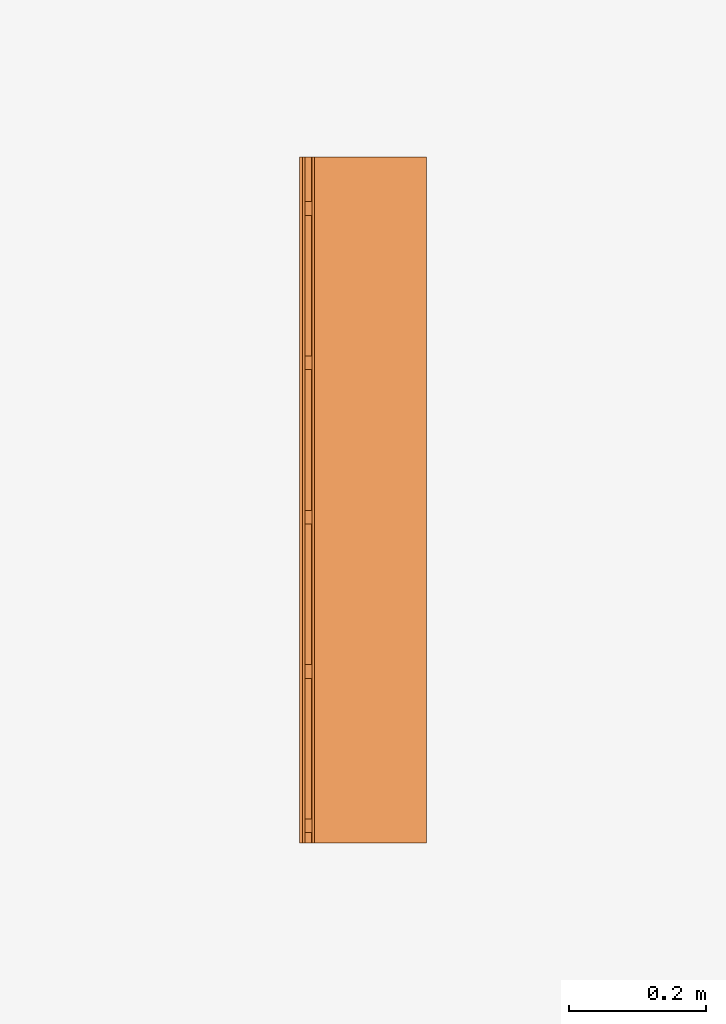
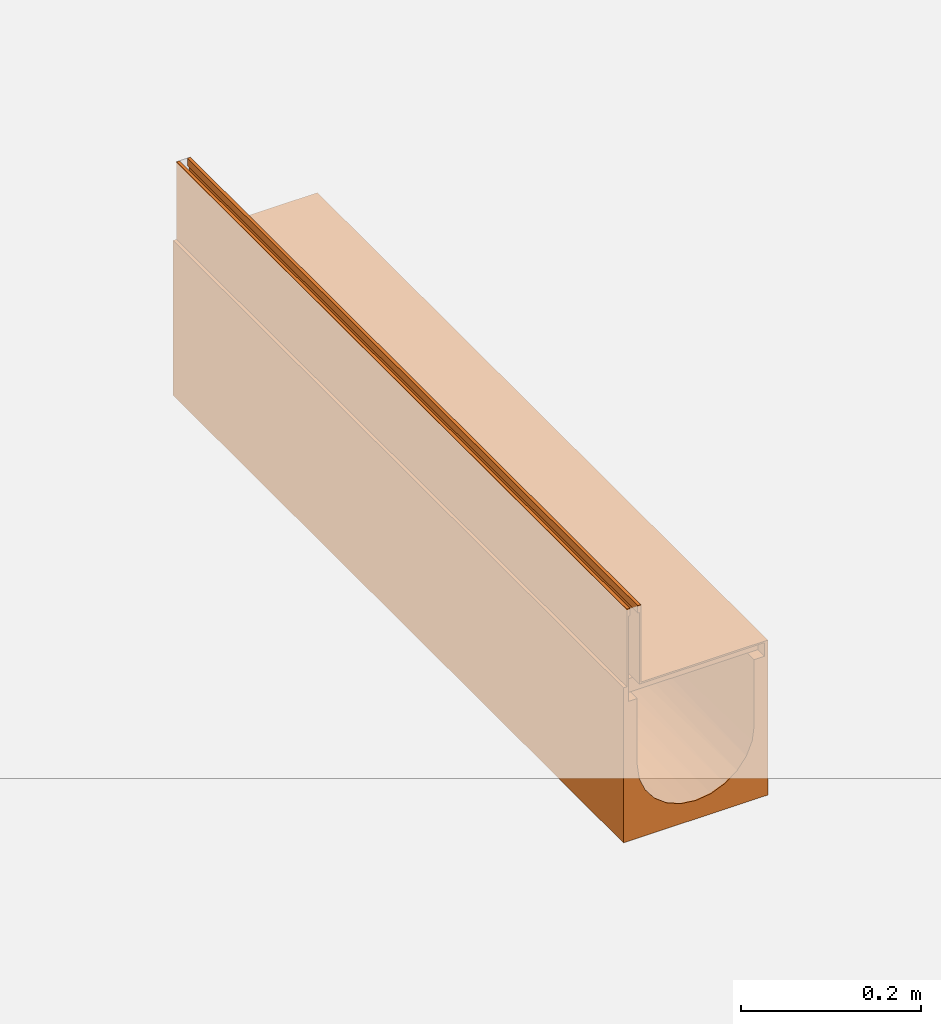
# One storey, part 2 of 2: 1 proxy.
"""IFC2X3 building model written with IfcOpenShell, lengths in millimetres."""

from ifc_helpers import new_model, entity, si_unit, converted_unit, direction, frame, origin, place, context, subcontext, project, spatial, faceted_brep, source, transform, mapped, material, material_list, element, save


model = new_model("IFC2X3")

# Units and contexts
model_context = context("Model", 3, precision=1e-06, world=origin(), true_north=direction((2.0, 6.12303176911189e-17, 1.0)))
context_of_model = context(None, 3, precision=1e-06, world=origin(), true_north=direction((2.0, 6.12303176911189e-17, 1.0)))
body_context = subcontext(model_context, "Body", "Model", "MODEL_VIEW")
ifc_project = project(units=[si_unit("LENGTHUNIT", "METRE", prefix="MILLI"), si_unit("AREAUNIT", "SQUARE_METRE", prefix="MILLI"), si_unit("VOLUMEUNIT", "CUBIC_METRE", prefix="MILLI"), converted_unit("PLANEANGLEUNIT", "DEGREE", entity("IfcRatioMeasure", 0.0174532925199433), si_unit("PLANEANGLEUNIT", "RADIAN"), dimensions=[0, 0, 0, 0, 0, 0, 0]), si_unit("TIMEUNIT", "SECOND")], contexts=[model_context, context_of_model])

# Site, building, storey
site_placement = place(None, origin())
site = spatial("IfcSite", under=ifc_project, at=site_placement, Name="Default", CompositionType="ELEMENT")
building_placement = place(site_placement, origin())
building = spatial("IfcBuilding", under=site, at=building_placement, CompositionType="ELEMENT")
storey_placement = place(building_placement, origin())
storey = spatial("IfcBuildingStorey", under=building, at=storey_placement, Name="Level 1", CompositionType="ELEMENT", Elevation=0.0)

# Proxy
ifc_material_1 = material(Name="Steel, Galvanized")
ifc_material_2 = material(Name="Vienite® Synthetic Resin Concrete")
ifc_material_list = material_list([ifc_material_1, ifc_material_2])
shared_shape = source(origin(), body_context, "Body", "Brep", [
    faceted_brep([(88.2500000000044, 465.0, -107.0), (88.2500000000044, 467.0, -109.0), (88.2500000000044, 483.0, -109.0), (88.2500000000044, 485.0, -107.0), (88.2500000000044, 467.0, -123.499999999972), (88.2500000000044, 465.0, -125.499999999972), (88.2500000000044, 483.0, -123.499999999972), (88.2500000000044, 485.0, -125.499999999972), (-86.2499999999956, 465.0, -125.499999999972), (-86.2499999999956, 467.0, -123.499999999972), (-86.2499999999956, 483.0, -123.499999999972), (-86.2499999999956, 485.0, -125.499999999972), (-86.2499999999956, 467.0, -109.0), (-86.2499999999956, 465.0, -107.0), (-86.2499999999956, 483.0, -109.0), (-86.2499999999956, 485.0, -107.0)], [[[0, 1, 2, 3]], [[4, 1, 0, 5]], [[3, 2, 6, 7]], [[6, 4, 5, 7]], [[8, 9, 10, 11]], [[12, 9, 8, 13]], [[11, 10, 14, 15]], [[14, 12, 13, 15]], [[5, 0, 13, 8]], [[7, 5, 8, 11]], [[3, 7, 11, 15]], [[0, 3, 15, 13]], [[1, 4, 9, 12]], [[14, 2, 1, 12]], [[6, 2, 14, 10]], [[9, 4, 6, 10]]]),
    faceted_brep([(88.2500000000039, 240.0, -107.0), (88.2500000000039, 242.0, -109.0), (88.2500000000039, 258.0, -109.0), (88.2500000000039, 260.0, -107.0), (88.2500000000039, 242.0, -123.499999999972), (88.2500000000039, 240.0, -125.499999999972), (88.2500000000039, 258.0, -123.499999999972), (88.2500000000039, 260.0, -125.499999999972), (-86.2499999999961, 240.0, -125.499999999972), (-86.2499999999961, 242.0, -123.499999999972), (-86.2499999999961, 258.0, -123.499999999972), (-86.2499999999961, 260.0, -125.499999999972), (-86.2499999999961, 242.0, -109.0), (-86.2499999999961, 240.0, -107.0), (-86.2499999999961, 258.0, -109.0), (-86.2499999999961, 260.0, -107.0)], [[[0, 1, 2, 3]], [[4, 1, 0, 5]], [[3, 2, 6, 7]], [[6, 4, 5, 7]], [[8, 9, 10, 11]], [[12, 9, 8, 13]], [[11, 10, 14, 15]], [[14, 12, 13, 15]], [[5, 0, 13, 8]], [[7, 5, 8, 11]], [[15, 3, 7, 11]], [[0, 3, 15, 13]], [[1, 4, 9, 12]], [[14, 2, 1, 12]], [[6, 2, 14, 10]], [[9, 4, 6, 10]]]),
    faceted_brep([(88.2500000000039, 15.0, -107.0), (88.2500000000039, 17.0, -109.0), (88.2500000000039, 33.0, -109.0), (88.2500000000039, 35.0, -107.0), (88.2500000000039, 17.0, -123.499999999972), (88.2500000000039, 15.0, -125.499999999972), (88.2500000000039, 33.0, -123.499999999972), (88.2500000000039, 35.0, -125.499999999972), (-86.2499999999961, 15.0, -125.499999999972), (-86.2499999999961, 17.0, -123.499999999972), (-86.2499999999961, 33.0, -123.499999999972), (-86.2499999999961, 35.0, -125.499999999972), (-86.2499999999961, 17.0, -109.0), (-86.2499999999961, 15.0, -107.0), (-86.2499999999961, 33.0, -109.0), (-86.2499999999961, 35.0, -107.0)], [[[0, 1, 2, 3]], [[4, 1, 0, 5]], [[3, 2, 6, 7]], [[6, 4, 5, 7]], [[8, 9, 10, 11]], [[12, 9, 8, 13]], [[11, 10, 14, 15]], [[14, 12, 13, 15]], [[5, 0, 13, 8]], [[7, 5, 8, 11]], [[3, 7, 11, 15]], [[0, 3, 15, 13]], [[12, 1, 4, 9]], [[14, 2, 1, 12]], [[10, 6, 2, 14]], [[9, 4, 6, 10]]]),
    faceted_brep([(88.2500000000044, 915.0, -107.0), (88.2500000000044, 917.0, -109.0), (88.2500000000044, 933.0, -109.0), (88.2500000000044, 935.0, -107.0), (88.2500000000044, 917.0, -123.49999999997), (88.2500000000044, 915.0, -125.49999999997), (88.2500000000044, 933.0, -123.49999999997), (88.2500000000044, 935.0, -125.49999999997), (-86.2499999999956, 915.0, -125.49999999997), (-86.2499999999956, 917.0, -123.49999999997), (-86.2499999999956, 933.0, -123.49999999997), (-86.2499999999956, 935.0, -125.49999999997), (-86.2499999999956, 917.0, -109.0), (-86.2499999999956, 915.0, -107.0), (-86.2499999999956, 933.0, -109.0), (-86.2499999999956, 935.0, -107.0)], [[[0, 1, 2, 3]], [[4, 1, 0, 5]], [[3, 2, 6, 7]], [[6, 4, 5, 7]], [[8, 9, 10, 11]], [[12, 9, 8, 13]], [[11, 10, 14, 15]], [[14, 12, 13, 15]], [[5, 0, 13, 8]], [[7, 5, 8, 11]], [[15, 3, 7, 11]], [[0, 3, 15, 13]], [[1, 4, 9, 12]], [[14, 2, 1, 12]], [[6, 2, 14, 10]], [[9, 4, 6, 10]]]),
    faceted_brep([(88.2500000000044, 690.0, -107.0), (88.2500000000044, 692.0, -109.0), (88.2500000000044, 708.0, -109.0), (88.2500000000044, 710.0, -107.0), (88.2500000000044, 692.0, -123.49999999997), (88.2500000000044, 690.0, -125.49999999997), (88.2500000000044, 708.0, -123.49999999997), (88.2500000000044, 710.0, -125.49999999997), (-86.2499999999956, 690.0, -125.49999999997), (-86.2499999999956, 692.0, -123.49999999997), (-86.2499999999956, 708.0, -123.49999999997), (-86.2499999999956, 710.0, -125.49999999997), (-86.2499999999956, 692.0, -109.0), (-86.2499999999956, 690.0, -107.0), (-86.2499999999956, 708.0, -109.0), (-86.2499999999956, 710.0, -107.0)], [[[0, 1, 2, 3]], [[4, 1, 0, 5]], [[3, 2, 6, 7]], [[6, 4, 5, 7]], [[8, 9, 10, 11]], [[12, 9, 8, 13]], [[11, 10, 14, 15]], [[14, 12, 13, 15]], [[8, 5, 0, 13]], [[7, 5, 8, 11]], [[3, 7, 11, 15]], [[0, 3, 15, 13]], [[12, 1, 4, 9]], [[14, 2, 1, 12]], [[10, 6, 2, 14]], [[9, 4, 6, 10]]]),
    faceted_brep([(-72.2499999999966, 0.0, -10.0), (-72.2499999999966, 0.0, -107.0), (-70.2499999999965, 0.0, -105.0), (-70.2499999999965, 0.0, 0.0), (-74.2499999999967, 0.0, 0.0), (-74.2499999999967, 0.0, -10.0), (88.2500000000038, 0.0, -107.0), (88.2500000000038, 0.0, -105.0), (-70.2499999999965, 1000.0, -105.0), (88.2500000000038, 1000.0, -105.0), (88.2500000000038, 1000.0, -107.0), (-72.2499999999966, 1000.0, -107.0), (-72.2499999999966, 1000.0, -10.0), (-70.2499999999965, 1000.0, 0.0), (-74.2499999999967, 1000.0, -10.0), (-74.2499999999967, 1000.0, 0.0)], [[[0, 1, 2, 3]], [[4, 5, 0, 3]], [[6, 7, 2, 1]], [[8, 9, 10, 11]], [[12, 13, 8, 11]], [[12, 14, 15, 13]], [[0, 5, 14, 12]], [[11, 1, 0, 12]], [[6, 1, 11, 10]], [[8, 2, 7, 9]], [[3, 2, 8, 13]], [[15, 4, 3, 13]], [[5, 4, 15, 14]], [[9, 7, 6, 10]]]),
    faceted_brep([(-84.2499999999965, 1000.0, 0.0), (-84.2499999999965, 1000.0, -10.0), (-86.2499999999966, 1000.0, -10.0), (-88.2499999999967, 1000.0, 0.0), (-88.2499999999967, 1000.0, -125.499999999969), (-86.2499999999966, 1000.0, -125.499999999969), (-86.2499999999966, 0.0, -10.0), (-88.2499999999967, 0.0, 0.0), (-88.2499999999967, 0.0, -125.499999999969), (-86.2499999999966, 0.0, -125.499999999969), (-84.2499999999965, 0.0, 0.0), (-84.2499999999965, 0.0, -10.0)], [[[0, 1, 2, 3]], [[4, 3, 2, 5]], [[6, 7, 8, 9]], [[10, 7, 6, 11]], [[9, 8, 4, 5]], [[6, 9, 5, 2]], [[11, 6, 2, 1]], [[10, 11, 1, 0]], [[3, 7, 10, 0]], [[4, 8, 7, 3]]]),
    faceted_brep([(88.2499999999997, 1000.0, -125.500000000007), (88.2499999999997, 1000.0, -105.0), (92.5000000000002, 1000.0, -105.0), (92.5000000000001, 1000.0, -315.0), (75.0, 1000.0, -215.0), (75.0, 1000.0, -125.500000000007), (72.4444369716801, 1000.0, -234.411428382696), (-92.4999999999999, 1000.0, -105.0), (-88.2499999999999, 1000.0, -105.0), (-88.2499999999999, 1000.0, -125.500000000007), (-92.4999999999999, 1000.0, -315.0), (-75.0, 1000.0, -125.500000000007), (-75.0, 1000.0, -215.0), (53.0330085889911, 1000.0, -268.033008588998), (64.9519052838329, 1000.0, -252.500000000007), (37.5000000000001, 1000.0, -279.95190528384), (0.0, 1000.0, -290.0), (19.4114283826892, 1000.0, -287.444436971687), (-64.9519052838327, 1000.0, -252.500000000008), (-53.0330085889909, 1000.0, -268.033008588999), (-72.44443697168, 1000.0, -234.411428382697), (-37.4999999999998, 1000.0, -279.95190528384), (-19.4114283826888, 1000.0, -287.444436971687), (92.5000000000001, 0.0, -315.0), (19.4114283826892, 0.0, -287.444436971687), (0.0, 0.0, -290.0), (37.5000000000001, 0.0, -279.95190528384), (53.0330085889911, 0.0, -268.033008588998), (64.9519052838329, 0.0, -252.500000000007), (72.4444369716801, 0.0, -234.411428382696), (-19.4114283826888, 0.0, -287.444436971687), (-92.4999999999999, 0.0, -315.0), (-37.4999999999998, 0.0, -279.95190528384), (-53.0330085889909, 0.0, -268.033008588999), (-64.9519052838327, 0.0, -252.500000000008), (-72.44443697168, 0.0, -234.411428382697), (75.0, 0.0, -215.0), (88.2499999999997, 0.0, -125.500000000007), (75.0, 0.0, -125.500000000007), (92.5000000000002, 0.0, -105.0), (88.2499999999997, 0.0, -105.0), (-75.0, 0.0, -215.0), (-75.0, 0.0, -125.500000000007), (-88.2499999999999, 0.0, -125.500000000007), (-88.2499999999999, 0.0, -105.0), (-92.4999999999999, 0.0, -105.0), (-20.7055236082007, 47.7259338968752, -315.0), (0.0, 45.0, -315.0), (-40.0, 55.7179676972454, -315.0), (-77.2740661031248, 104.294476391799, -315.0), (-69.2820323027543, 85.0, -315.0), (-56.5685424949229, 68.4314575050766, -315.0), (-80.0, 125.0, -315.0), (20.7055236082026, 47.7259338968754, -315.0), (40.0, 55.7179676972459, -315.0), (56.5685424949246, 68.4314575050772, -315.0), (69.2820323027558, 85.0, -315.0), (77.2740661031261, 104.294476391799, -315.0), (80.0, 125.0, -315.0), (-77.2740661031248, 145.705523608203, -315.0), (-69.2820323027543, 165.0, -315.0), (-56.5685424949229, 181.568542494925, -315.0), (-40.0, 194.282032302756, -315.0), (-20.7055236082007, 202.274066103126, -315.0), (0.0, 205.0, -315.0), (69.2820323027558, 165.0, -315.0), (56.5685424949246, 181.568542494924, -315.0), (77.2740661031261, 145.705523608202, -315.0), (20.7055236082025, 202.274066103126, -315.0), (40.0, 194.282032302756, -315.0), (75.0, 500.0, -215.0), (-75.0, 500.0, -215.0), (59.5015003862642, 412.754760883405, -260.657107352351), (28.7012574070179, 587.245238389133, -284.290964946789), (9.78946440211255, 500.0, -289.358364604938), (69.290964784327, 499.999994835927, -243.701257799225), (73.5588959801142, 358.503168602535, -229.631774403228), (45.6571070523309, 500.0, -274.501500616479), (74.0403241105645, 701.518493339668, -226.959531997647), (-45.6571071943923, 412.754763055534, -274.501500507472), (-73.5588960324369, 641.496824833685, -229.631774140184), (-28.70125746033, 500.0, -284.290964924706), (-9.78946442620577, 587.245236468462, -289.358364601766), (-59.5015005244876, 587.24523647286, -260.657107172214), (-74.0403241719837, 298.481491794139, -226.959531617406), (-69.290964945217, 500.0, -243.701257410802), (-56.5685424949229, 181.568542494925, -305.0), (-40.0, 194.282032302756, -305.0), (-20.7055236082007, 202.274066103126, -305.0), (40.0, 194.282032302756, -305.0), (-80.0, 125.0, -305.0), (-77.2740661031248, 145.705523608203, -305.0), (-69.2820323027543, 165.0, -305.0), (77.2740661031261, 145.705523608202, -305.0), (0.0, 205.0, -305.0), (20.7055236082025, 202.274066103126, -305.0), (56.5685424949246, 181.568542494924, -305.0), (69.2820323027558, 165.0, -305.0), (-77.2740661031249, 104.294476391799, -305.0), (80.0, 125.0, -305.0), (-56.5685424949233, 68.431457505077, -305.0), (-69.2820323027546, 85.0, -305.0), (-40.0, 55.7179676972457, -305.0), (0.0, 45.0, -305.0), (-20.7055236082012, 47.7259338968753, -305.0), (40.0, 55.7179676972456, -305.0), (77.2740661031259, 104.294476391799, -305.0), (69.2820323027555, 85.0, -305.0), (56.5685424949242, 68.4314575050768, -305.0), (20.7055236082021, 47.7259338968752, -305.0)], [[[0, 1, 2, 3]], [[4, 5, 0, 3]], [[4, 3, 6]], [[7, 8, 9, 10]], [[9, 11, 12, 10]], [[13, 14, 3]], [[15, 13, 3]], [[16, 17, 3, 10]], [[3, 17, 15]], [[14, 6, 3]], [[18, 19, 10]], [[20, 18, 10]], [[21, 22, 10]], [[10, 22, 16]], [[21, 10, 19]], [[20, 10, 12]], [[23, 24, 25]], [[24, 23, 26]], [[27, 26, 23]], [[28, 27, 23]], [[23, 29, 28]], [[25, 30, 31, 23]], [[31, 30, 32]], [[33, 34, 31]], [[32, 33, 31]], [[31, 34, 35]], [[29, 23, 36]], [[37, 38, 36, 23]], [[39, 40, 37, 23]], [[41, 42, 43, 31]], [[43, 44, 45, 31]], [[41, 31, 35]], [[44, 43, 9, 8]], [[7, 45, 44, 8]], [[31, 45, 7, 10]], [[31, 46, 47, 23]], [[46, 31, 48]], [[49, 50, 31]], [[51, 48, 31]], [[50, 51, 31]], [[31, 52, 49]], [[23, 53, 54]], [[53, 23, 47]], [[23, 54, 55]], [[55, 56, 23]], [[57, 58, 23]], [[56, 57, 23]], [[23, 58, 3]], [[59, 52, 10]], [[60, 59, 10]], [[61, 10, 62]], [[10, 61, 60]], [[63, 62, 10]], [[64, 63, 10, 3]], [[52, 31, 10]], [[65, 66, 3]], [[67, 65, 3]], [[68, 64, 3]], [[69, 3, 66]], [[3, 69, 68]], [[67, 3, 58]], [[39, 23, 3, 2]], [[1, 40, 39, 2]], [[37, 40, 1, 0]], [[38, 37, 0, 5]], [[4, 70, 38, 5]], [[11, 42, 41, 71]], [[9, 43, 42, 11]], [[72, 27, 28]], [[73, 74, 24]], [[28, 29, 75]], [[75, 29, 76]], [[26, 27, 77]], [[76, 78, 75]], [[70, 76, 36]], [[75, 72, 28]], [[6, 78, 4]], [[24, 26, 73]], [[14, 75, 6]], [[78, 70, 4]], [[76, 29, 36]], [[15, 17, 73]], [[79, 33, 32]], [[72, 75, 14]], [[20, 12, 80]], [[14, 13, 72]], [[15, 73, 77]], [[21, 81, 22]], [[17, 16, 74]], [[24, 74, 25]], [[82, 81, 30]], [[15, 77, 13]], [[32, 30, 81]], [[83, 79, 19]], [[84, 80, 71]], [[79, 32, 81]], [[35, 34, 85]], [[83, 34, 33]], [[82, 22, 81]], [[85, 34, 83]], [[19, 79, 21]], [[71, 41, 84]], [[30, 25, 82]], [[22, 82, 16]], [[72, 77, 27]], [[82, 74, 16]], [[78, 76, 70]], [[79, 81, 21]], [[73, 17, 74]], [[18, 85, 83]], [[83, 19, 18]], [[77, 73, 26]], [[20, 80, 85]], [[77, 72, 13]], [[74, 82, 25]], [[33, 79, 83]], [[6, 75, 78]], [[20, 85, 18]], [[35, 85, 84]], [[71, 80, 12]], [[80, 84, 85]], [[35, 84, 41]], [[86, 87, 88, 89]], [[86, 90, 91, 92]], [[90, 86, 89, 93]], [[88, 94, 95, 89]], [[89, 96, 97, 93]], [[98, 90, 93, 99]], [[100, 101, 98, 102]], [[103, 104, 102, 105]], [[99, 102, 98]], [[106, 107, 108, 105]], [[99, 106, 105, 102]], [[105, 109, 103]], [[93, 67, 58, 99]], [[97, 65, 67, 93]], [[89, 69, 66, 96]], [[96, 66, 65, 97]], [[95, 68, 69, 89]], [[68, 95, 94, 64]], [[88, 63, 64, 94]], [[87, 62, 63, 88]], [[92, 60, 61, 86]], [[86, 61, 62, 87]], [[91, 59, 60, 92]], [[59, 91, 90, 52]], [[98, 49, 52, 90]], [[101, 50, 49, 98]], [[102, 48, 51, 100]], [[100, 51, 50, 101]], [[104, 46, 48, 102]], [[46, 104, 103, 47]], [[109, 53, 47, 103]], [[105, 54, 53, 109]], [[107, 56, 55, 108]], [[108, 55, 54, 105]], [[106, 57, 56, 107]], [[106, 99, 58, 57]], [[38, 70, 36]], [[11, 71, 12]]]),
])
proxy_placement = place(storey_placement, frame((0.0, -230.0, 0.0)))
element("IfcBuildingElementProxy", 1, at=proxy_placement, inside=storey, material=ifc_material_list, Name="Civil-Drainage-Channel-ACO-MultiDrain-M150D-Brickslot-Channel-System:23150 - No 0.0 Constant Depth Channel - 1000mm LG - Invert Depth 185mm:23150 - No 0.0 Constant Depth Channel - 1000mm LG - Invert Depth 185mm", ObjectType="23150 - No 0.0 Constant Depth Channel - 1000mm LG - Invert Depth 185mm", CompositionType="ELEMENT", context=body_context, shape_type="MappedRepresentation", body=[
    mapped(shared_shape, transform((0.0, 0.0, 0.0), scale=1.0)),
])

save(model, "model.ifc")
